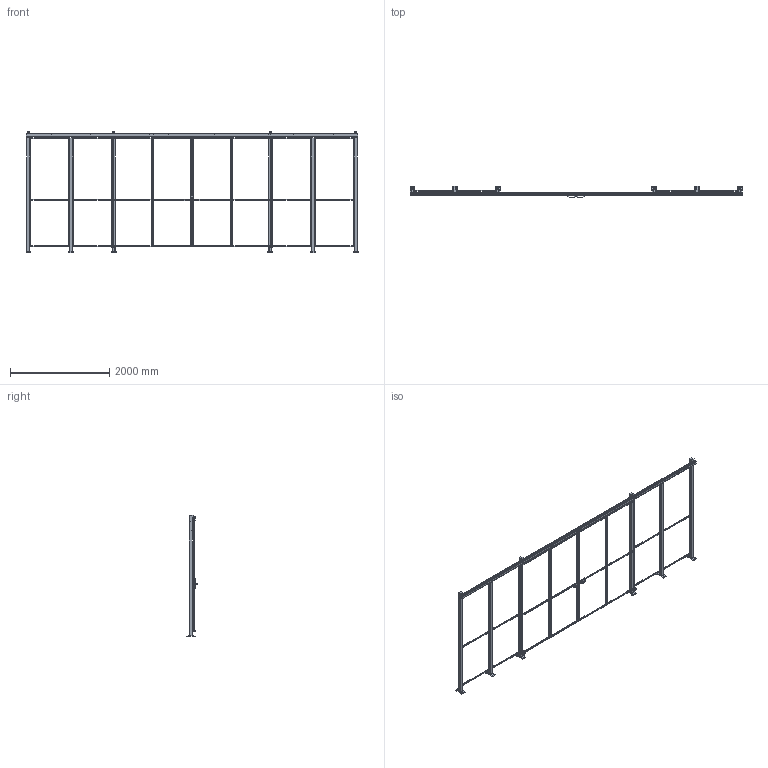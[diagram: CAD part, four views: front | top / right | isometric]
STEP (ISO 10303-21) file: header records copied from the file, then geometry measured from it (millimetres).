
FILE_DESCRIPTION(/* description */ (''),/* implementation_level */ '2;1');
FILE_NAME(/* name */ 'C:\SafeGuarding\ELABORATI\HOR§VED_2025-03-31-14-14-38.stp',/* time_stamp */ '2025-03-31T14:14:43+02:00',/* author */ ('admin'),/* organization */ (''),/* preprocessor_version */ 'ST-DEVELOPER v18.1',/* originating_system */ 'AutoCAD Mechanical',/* authorisation */ '');
FILE_SCHEMA (('AUTOMOTIVE_DESIGN { 1 0 10303 214 3 1 1 }'));
Length unit declared in the file: millimetre
Products named in the file (3): Product; R_VFPA.REPE20.08002200; P_VFMA.V260SDU.2320
Assembly tree (14 placements, depth 2):
  Product
    R_VFPA.REPE20.08002200  x8
    P_VFMA.V260SDU.2320  x6
Bounding box: 6700 x 235.91 x 2454 mm (x, y, z)
Volume: 87863794 mm3; surface area: 12480103.4 mm2
Topology: 84 solids, 106 shells, 874 faces, 2965 edges, 3222 vertices
Faces by surface type: plane 810, cylinder 64
Full cylindrical faces by diameter (mm): 11 x24, 12 x4, 14 x4, 15 x8, 40 x8
Entity records: 17912 total; most frequent: CARTESIAN_POINT 3730, ORIENTED_EDGE 2724, DIRECTION 2675, EDGE_CURVE 1460, LINE 1293, VECTOR 1293, VERTEX_POINT 1056, AXIS2_PLACEMENT_3D 691
